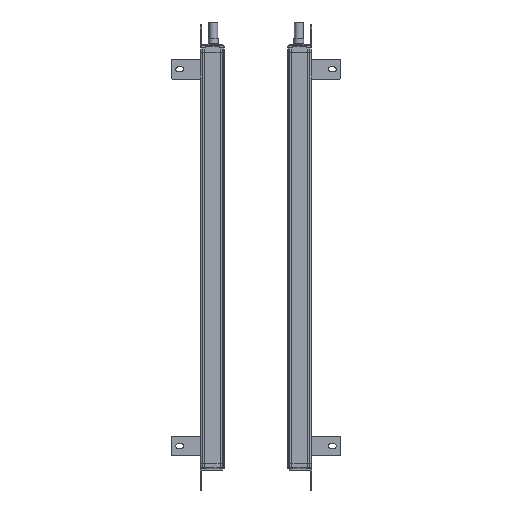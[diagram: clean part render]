
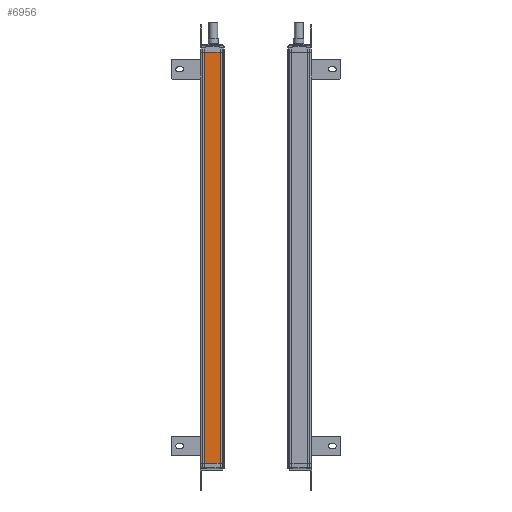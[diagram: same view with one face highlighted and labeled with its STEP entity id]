
A CAD part, left-side view. The second image highlights one B-rep face of the part: STEP entity #6956.
In plain terms, the highlighted planar face has unit normal (-1, 0, 0).
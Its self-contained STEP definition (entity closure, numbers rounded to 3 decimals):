
#953=FACE_OUTER_BOUND('',#9034,.T.);
#2188=LINE('',#33710,#4326);
#2290=LINE('',#34050,#4428);
#2291=LINE('',#34052,#4429);
#2292=LINE('',#34054,#4430);
#4326=VECTOR('',#26897,1.);
#4428=VECTOR('',#27185,1.);
#4429=VECTOR('',#27188,1.);
#4430=VECTOR('',#27189,1.);
#6178=PLANE('',#23723);
#6956=ADVANCED_FACE('',(#953),#6178,.T.);
#9034=EDGE_LOOP('',(#11681,#11682,#11683,#11684));
#11681=ORIENTED_EDGE('',*,*,#19828,.F.);
#11682=ORIENTED_EDGE('',*,*,#19829,.T.);
#11683=ORIENTED_EDGE('',*,*,#19830,.T.);
#11684=ORIENTED_EDGE('',*,*,#19658,.F.);
#17203=VERTEX_POINT('',#33709);
#17204=VERTEX_POINT('',#33711);
#17348=VERTEX_POINT('',#34049);
#17349=VERTEX_POINT('',#34053);
#19658=EDGE_CURVE('',#17203,#17204,#2188,.T.);
#19828=EDGE_CURVE('',#17348,#17203,#2290,.T.);
#19829=EDGE_CURVE('',#17348,#17349,#2291,.T.);
#19830=EDGE_CURVE('',#17349,#17204,#2292,.T.);
#23723=AXIS2_PLACEMENT_3D('',#34055,#27190,#27191);
#26897=DIRECTION('',(0.,-1.,0.));
#27185=DIRECTION('',(0.,0.,1.));
#27188=DIRECTION('',(0.,-1.,0.));
#27189=DIRECTION('',(0.,0.,1.));
#27190=DIRECTION('',(-1.,0.,0.));
#27191=DIRECTION('',(0.,-1.,0.));
#33709=CARTESIAN_POINT('',(233.846,104.141,31.645));
#33710=CARTESIAN_POINT('',(233.846,81.141,31.645));
#33711=CARTESIAN_POINT('',(233.846,81.141,31.645));
#34049=CARTESIAN_POINT('',(233.846,104.141,-593.355));
#34050=CARTESIAN_POINT('',(233.846,104.141,-155.355));
#34052=CARTESIAN_POINT('',(233.846,81.141,-593.355));
#34053=CARTESIAN_POINT('',(233.846,81.141,-593.355));
#34054=CARTESIAN_POINT('',(233.846,81.141,-155.355));
#34055=CARTESIAN_POINT('',(233.846,81.141,-50.355));
